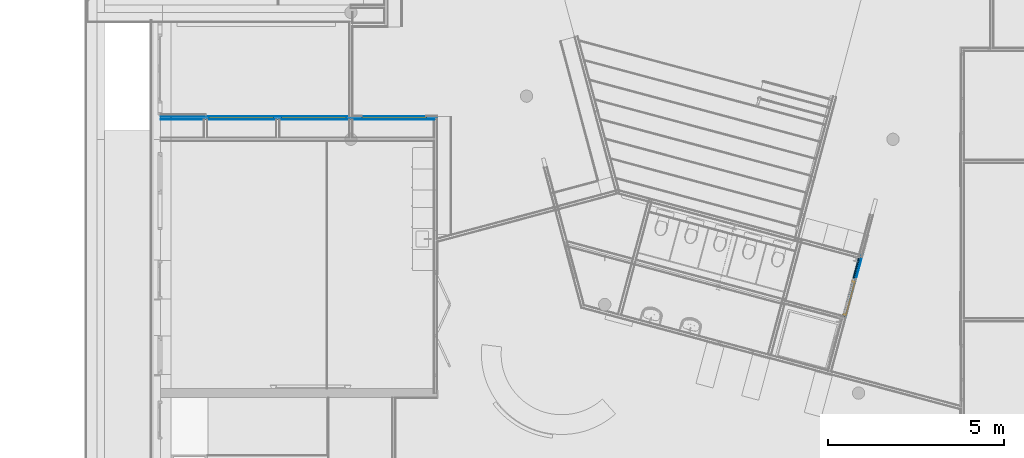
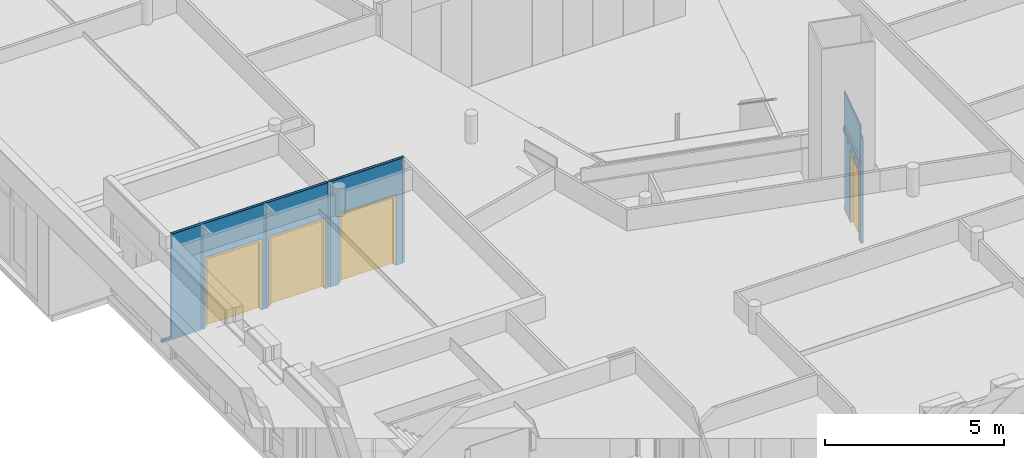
# One storey, part 27 of 167: 6 building element parts, 4 doors, 4 openings, 2 elements without a shape of their own.
"""IFC2X3 building model written with IfcOpenShell, lengths in millimetres."""

from ifc_helpers import new_model, entity, si_unit, converted_unit, derived_unit, money_unit, direction, frame, origin_with_axes, place, context, subcontext, project, spatial, faceted_brep, source, transform, mapped, material, type_object, type_shapes, element, fill, aggregate, save


model = new_model("IFC2X3")

# Units and contexts
model_context = context("Model", 3, precision=0.01, world=origin_with_axes(), true_north=direction((0.0, 1.0)))
plan_context = context("Plan", 3, precision=0.01, world=origin_with_axes(), true_north=direction((0.0, 1.0)))
body_context = subcontext(model_context, "Body", "Model", "MODEL_VIEW")
ifc_project = project(units=[si_unit("LENGTHUNIT", "METRE", prefix="MILLI"), si_unit("AREAUNIT", "SQUARE_METRE"), si_unit("VOLUMEUNIT", "CUBIC_METRE"), converted_unit("PLANEANGLEUNIT", "DEGREE", entity("IfcPlaneAngleMeasure", 0.0174532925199), si_unit("PLANEANGLEUNIT", "RADIAN"), dimensions=[0, 0, 0, 0, 0, 0, 0]), si_unit("SOLIDANGLEUNIT", "STERADIAN"), money_unit("EUR"), converted_unit("TIMEUNIT", "Year", entity("IfcTimeMeasure", 31556926.0), si_unit("TIMEUNIT", "SECOND"), dimensions=[0, 0, 1, 0, 0, 0, 0]), si_unit("MASSUNIT", "GRAM", prefix="KILO"), si_unit("THERMODYNAMICTEMPERATUREUNIT", "DEGREE_CELSIUS"), si_unit("LUMINOUSINTENSITYUNIT", "LUMEN"), si_unit("ENERGYUNIT", "JOULE", prefix="MEGA"), derived_unit("THERMALCONDUCTANCEUNIT", [(si_unit("POWERUNIT", "WATT"), 1), (si_unit("LENGTHUNIT", "METRE"), -1), (si_unit("THERMODYNAMICTEMPERATUREUNIT", "KELVIN"), -1)]), derived_unit("SPECIFICHEATCAPACITYUNIT", [(si_unit("ENERGYUNIT", "JOULE"), 1), (si_unit("MASSUNIT", "GRAM", prefix="KILO"), -1), (si_unit("THERMODYNAMICTEMPERATUREUNIT", "KELVIN"), -1)]), derived_unit("MASSDENSITYUNIT", [(si_unit("MASSUNIT", "GRAM", prefix="KILO"), 1), (si_unit("VOLUMEUNIT", "CUBIC_METRE"), -1)])], contexts=[model_context, plan_context])

# Site, building, storey
site_placement = place(None, origin_with_axes())
site = spatial("IfcSite", under=ifc_project, at=site_placement, Name="Site", CompositionType="ELEMENT")
building_placement = place(site_placement, origin_with_axes())
building = spatial("IfcBuilding", under=site, at=building_placement, Name="Naam gebouw", CompositionType="ELEMENT")
storey_placement = place(building_placement, origin_with_axes())
storey = spatial("IfcBuildingStorey", under=building, at=storey_placement, Name="Begane grond", CompositionType="ELEMENT", Elevation=0.0)

# Door
door_style_1 = type_object("IfcDoorStyle", Name="D1 24", ConstructionType="NOTDEFINED", OperationType="SINGLE_SWING_RIGHT", ParameterTakesPrecedence=False, Sizeable=False)
shared_shape_1 = source(origin_with_axes(), body_context, "Body", "Brep", [
    faceted_brep([(-450.0, -40.0, 0.0), (-450.0, -40.0, 2300.0), (-450.0, -114.0, 2300.0), (-450.0, -114.0, 0.0), (-475.0, -40.0, 2300.0), (-475.0, -40.0, 0.0), (-475.0, 0.0, 2300.0), (-517.0, 0.0, 2300.0), (-517.0, -114.0, 2300.0), (-517.0, -114.0, 0.0), (-517.0, 0.0, 0.0), (-475.0, 0.0, 0.0)], [[[0, 1, 2, 3]], [[4, 1, 0, 5]], [[4, 6, 7, 8, 2, 1]], [[3, 2, 8, 9]], [[5, 0, 3, 9, 10, 11]], [[6, 4, 5, 11]], [[6, 11, 10, 7]], [[10, 9, 8, 7]]]),
    faceted_brep([(475.0, -40.0, 2300.0), (450.0, -40.0, 2300.0), (450.0, -114.0, 2300.0), (517.0, -114.0, 2300.0), (517.0, 0.0, 2300.0), (475.0, 0.0, 2300.0), (475.0, -40.0, 0.0), (450.0, -40.0, 0.0), (450.0, -114.0, 0.0), (517.0, -114.0, 0.0), (517.0, 0.0, 0.0), (475.0, 0.0, 0.0)], [[[0, 1, 2, 3, 4, 5]], [[1, 0, 6, 7]], [[1, 7, 8, 2]], [[3, 2, 8, 9]], [[4, 3, 9, 10]], [[11, 5, 4, 10]], [[0, 5, 11, 6]], [[6, 11, 10, 9, 8, 7]]]),
    faceted_brep([(-475.0, 0.0, 2325.0), (-475.0, 0.0, 2300.0), (-517.0, 0.0, 2300.0), (-517.0, 0.0, 2367.0), (517.0, 0.0, 2367.0), (517.0, 0.0, 2300.0), (475.0, 0.0, 2300.0), (475.0, 0.0, 2325.0), (-475.0, -40.0, 2325.0), (-475.0, -40.0, 2300.0), (-450.0, -40.0, 2300.0), (-450.0, -114.0, 2300.0), (-517.0, -114.0, 2300.0), (-517.0, -114.0, 2367.0), (517.0, -114.0, 2367.0), (517.0, -114.0, 2300.0), (475.0, -40.0, 2300.0), (450.0, -114.0, 2300.0), (450.0, -40.0, 2300.0), (475.0, -40.0, 2325.0)], [[[0, 1, 2, 3, 4, 5, 6, 7]], [[1, 0, 8, 9]], [[9, 10, 11, 12, 2, 1]], [[2, 12, 13, 3]], [[3, 13, 14, 4]], [[4, 14, 15, 5]], [[16, 6, 5, 15, 17, 18]], [[7, 6, 16, 19]], [[0, 7, 19, 8]], [[16, 18, 10, 9, 8, 19]], [[10, 18, 17, 11]], [[17, 15, 14, 13, 12, 11]]]),
    faceted_brep([(475.0, 0.0, 0.0), (475.0, -40.0, 0.0), (-475.0, -40.0, 0.0), (-475.0, 0.0, 0.0), (475.0, 0.0, 2325.0), (475.0, -40.0, 2325.0), (-475.0, -40.0, 2325.0), (-475.0, 0.0, 2325.0)], [[[0, 1, 2, 3]], [[4, 5, 1, 0]], [[1, 5, 6, 2]], [[3, 2, 6, 7]], [[0, 3, 7, 4]], [[7, 6, 5, 4]]]),
])
type_shapes(door_style_1, [shared_shape_1])
wall_1_placement = place(storey_placement, frame((21651.3011694, 14664.9063745, -100.0), z_axis=(0.0, 0.0, 1.0), x_axis=(-0.258819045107, -0.965925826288, 0.0)))
opening_1_placement = place(wall_1_placement, frame((1210.53165571, 0.0, 100.0), z_axis=(0.0, 0.0, 1.0), x_axis=(1.0, 0.0, 0.0)))
door_1_placement = place(opening_1_placement, frame((-517.0, 0.0, 0.0), z_axis=(0.0, 0.0, 1.0), x_axis=(1.0, 0.0, 0.0)))
door_1 = element("IfcDoor", 1, at=door_1_placement, inside=storey, type_object=door_style_1, Name="32_Deur_Hi-01s", ObjectType="DOOR", OverallHeight=2367.0, OverallWidth=1034.0, context=body_context, shape_type="MappedRepresentation", body=[
    mapped(shared_shape_1, transform((517.0, 50.0, 0.0))),
])

door_style_2 = type_object("IfcDoorStyle", Name="D2 24", ConstructionType="NOTDEFINED", OperationType="DOUBLE_DOOR_SINGLE_SWING", ParameterTakesPrecedence=False, Sizeable=False)
shared_shape_2 = source(origin_with_axes(), body_context, "Body", "Brep", [
    faceted_brep([(-848.5, -40.0, 0.0), (-848.5, -40.0, 2300.0), (-848.5, -114.0, 2300.0), (-848.5, -114.0, 0.0), (-873.5, -40.0, 2300.0), (-873.5, -40.0, 0.0), (-873.5, 0.0, 2300.0), (-915.5, 0.0, 2300.0), (-915.5, -114.0, 2300.0), (-915.5, -114.0, 0.0), (-915.5, 0.0, 0.0), (-873.5, 0.0, 0.0)], [[[0, 1, 2, 3]], [[4, 1, 0, 5]], [[4, 6, 7, 8, 2, 1]], [[3, 2, 8, 9]], [[5, 0, 3, 9, 10, 11]], [[6, 4, 5, 11]], [[6, 11, 10, 7]], [[10, 9, 8, 7]]]),
    faceted_brep([(873.5, -40.0, 2300.0), (848.5, -40.0, 2300.0), (848.5, -114.0, 2300.0), (915.5, -114.0, 2300.0), (915.5, 0.0, 2300.0), (873.5, 0.0, 2300.0), (873.5, -40.0, 0.0), (848.5, -40.0, 0.0), (848.5, -114.0, 0.0), (915.5, -114.0, 0.0), (915.5, 0.0, 0.0), (873.5, 0.0, 0.0)], [[[0, 1, 2, 3, 4, 5]], [[1, 0, 6, 7]], [[1, 7, 8, 2]], [[3, 2, 8, 9]], [[4, 3, 9, 10]], [[11, 5, 4, 10]], [[0, 5, 11, 6]], [[6, 11, 10, 9, 8, 7]]]),
    faceted_brep([(-873.5, 0.0, 2325.0), (-873.5, 0.0, 2300.0), (-915.5, 0.0, 2300.0), (-915.5, 0.0, 2367.0), (915.5, 0.0, 2367.0), (915.5, 0.0, 2300.0), (873.5, 0.0, 2300.0), (873.5, 0.0, 2325.0), (-873.5, -40.0, 2325.0), (-873.5, -40.0, 2300.0), (-848.5, -40.0, 2300.0), (-848.5, -114.0, 2300.0), (-915.5, -114.0, 2300.0), (-915.5, -114.0, 2367.0), (915.5, -114.0, 2367.0), (915.5, -114.0, 2300.0), (873.5, -40.0, 2300.0), (848.5, -114.0, 2300.0), (848.5, -40.0, 2300.0), (873.5, -40.0, 2325.0)], [[[0, 1, 2, 3, 4, 5, 6, 7]], [[1, 0, 8, 9]], [[9, 10, 11, 12, 2, 1]], [[2, 12, 13, 3]], [[3, 13, 14, 4]], [[4, 14, 15, 5]], [[16, 6, 5, 15, 17, 18]], [[7, 6, 16, 19]], [[0, 7, 19, 8]], [[16, 18, 10, 9, 8, 19]], [[10, 18, 17, 11]], [[17, 15, 14, 13, 12, 11]]]),
    faceted_brep([(873.5, 0.0, 0.0), (873.5, -40.0, 0.0), (0.0, -40.0, 0.0), (0.0, 0.0, 0.0), (873.5, 0.0, 2325.0), (873.5, -40.0, 2325.0), (0.0, -40.0, 2325.0), (0.0, 0.0, 2325.0)], [[[0, 1, 2, 3]], [[4, 5, 1, 0]], [[1, 5, 6, 2]], [[3, 2, 6, 7]], [[0, 3, 7, 4]], [[7, 6, 5, 4]]]),
    faceted_brep([(-873.5, 0.0, 0.0), (0.0, 0.0, 0.0), (0.0, -40.0, 0.0), (-873.5, -40.0, 0.0), (-873.5, 0.0, 2325.0), (0.0, 0.0, 2325.0), (0.0, -40.0, 2325.0), (-873.5, -40.0, 2325.0)], [[[0, 1, 2, 3]], [[0, 4, 5, 1]], [[1, 5, 6, 2]], [[3, 2, 6, 7]], [[4, 0, 3, 7]], [[5, 4, 7, 6]]]),
])
type_shapes(door_style_2, [shared_shape_2])
wall_2_placement = place(storey_placement, frame((9600.0, 18600.0, -100.0), z_axis=(0.0, 0.0, 1.0), x_axis=(-1.0, 0.0, 0.0)))
opening_2_placement = place(wall_2_placement, frame((5508.89808526, 0.0, 100.0), z_axis=(0.0, 0.0, 1.0), x_axis=(1.0, 0.0, 0.0)))
door_2_placement = place(opening_2_placement, frame((915.5, 0.0, 0.0), z_axis=(0.0, 0.0, 1.0), x_axis=(-1.0, 0.0, 0.0)))
door_2 = element("IfcDoor", 2, at=door_2_placement, inside=storey, type_object=door_style_2, Name="_Deur_Hi-08", ObjectType="DOOR", OverallHeight=2367.0, OverallWidth=1831.0, context=body_context, shape_type="MappedRepresentation", body=[
    mapped(shared_shape_2, transform((915.5, 50.0, 0.0))),
])

opening_3_placement = place(wall_2_placement, frame((3451.11329833, 0.0, 100.0), z_axis=(0.0, 0.0, 1.0), x_axis=(1.0, 0.0, 0.0)))
door_3_placement = place(opening_3_placement, frame((915.5, 0.0, 0.0), z_axis=(0.0, 0.0, 1.0), x_axis=(-1.0, 0.0, 0.0)))
door_3 = element("IfcDoor", 3, at=door_3_placement, inside=storey, type_object=door_style_2, Name="_Deur_Hi-08", ObjectType="DOOR", OverallHeight=2367.0, OverallWidth=1831.0, context=body_context, shape_type="MappedRepresentation", body=[
    mapped(shared_shape_2, transform((915.5, 50.0, 0.0))),
])

opening_4_placement = place(wall_2_placement, frame((1175.41995261, 0.0, 100.0), z_axis=(0.0, 0.0, 1.0), x_axis=(1.0, 0.0, 0.0)))
door_4_placement = place(opening_4_placement, frame((915.5, 0.0, 0.0), z_axis=(0.0, 0.0, 1.0), x_axis=(-1.0, 0.0, 0.0)))
door_4 = element("IfcDoor", 4, at=door_4_placement, inside=storey, type_object=door_style_2, Name="_Deur_Hi-08", ObjectType="DOOR", OverallHeight=2367.0, OverallWidth=1831.0, context=body_context, shape_type="MappedRepresentation", body=[
    mapped(shared_shape_2, transform((915.5, 50.0, 0.0))),
])

# Wall, opening
wall_type = type_object("IfcWallType", Name="_TenW_22_Metalstud 100 enkel gipsvezelplaat 100", PredefinedType="NOTDEFINED")
wall_1 = element("IfcWall", 5, at=wall_1_placement, inside=storey, type_object=wall_type, Name="22_Wand_Wand-x")
opening_1 = element("IfcOpeningElement", 6, at=opening_1_placement, cuts=wall_1, Name="32_Deur_Hi-01s", context=body_context, shape_type="Brep", body=[
    faceted_brep([(517.0, -100.0, 2367.0), (517.0, -100.0, 0.0), (517.0, 200.0, 0.0), (517.0, 200.0, 2367.0), (-517.0, -100.0, 2367.0), (-517.0, -100.0, 0.0), (-517.0, 200.0, 0.0), (-517.0, 200.0, 2367.0)], [[[0, 1, 2, 3]], [[0, 4, 5, 1]], [[1, 5, 6, 2]], [[3, 2, 6, 7]], [[4, 0, 3, 7]], [[5, 4, 7, 6]]]),
])

fill(opening_1, door_1)

# Building element part
ifc_material_1 = material(Name="Gipsplaat watervast")
building_element_part_1_placement = place(wall_1_placement, origin_with_axes())
building_element_part_1 = element("IfcBuildingElementPart", 7, at=building_element_part_1_placement, material=ifc_material_1, Name="Gipsplaat watervast", context=body_context, shape_type="Brep", body=[
    faceted_brep([(1727.53165571, 50.0000196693, 100.0), (1727.53165571, 49.9999913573, 2467.0), (693.53165571, 49.9999913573, 2467.0), (693.53165571, 50.0000196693, 100.0), (693.53165571, 50.0000077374, 30.0), (0.0, 50.0, 30.0), (0.0, 50.0, 100.0), (-37.5000000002, 50.0000174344, 100.0), (-37.5000000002, 50.0000006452, 2590.0), (-50.0000000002, 50.0000006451, 2590.0), (-150.0, 49.9999918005, 2590.0), (-150.0, 49.9999913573, 2730.0), (0.0, 49.9999913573, 2730.0), (0.0, 49.9999913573, 3630.0), (1750.01800562, 50.000002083, 3630.0), (1750.01800546, 50.000019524, 30.0), (1727.53165571, 50.0000192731, 30.0), (1727.53165571, 37.5, 100.0), (1727.53165571, 37.5000000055, 2467.0), (693.53165571, 37.5000000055, 2467.0), (693.53165571, 37.5, 100.0), (693.53165571, 37.5000000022, 30.0), (0.0, 37.5, 30.0), (0.0, 37.5, 100.0), (-37.5000000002, 37.5, 100.0), (-37.5000000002, 37.5, 2590.0), (-50.0000000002, 37.5, 2590.0), (-150.0, 37.5000069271, 2590.0), (-150.0, 37.5000073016, 2730.0), (0.0, 37.5000073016, 2730.0), (0.0, 37.5000073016, 3630.0), (1750.01800562, 37.5000006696, 3630.0), (1750.01800546, 37.5000000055, 30.0), (1727.53165571, 37.5000000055, 30.0)], [[[0, 1, 2, 3, 4, 5, 6, 7, 8, 9, 10, 11, 12, 13, 14, 15, 16]], [[1, 0, 17, 18]], [[2, 1, 18, 19]], [[3, 2, 19, 20]], [[3, 20, 21, 4]], [[4, 21, 22, 5]], [[5, 22, 23, 6]], [[23, 24, 7, 6]], [[25, 8, 7, 24]], [[25, 26, 9, 8]], [[10, 9, 26, 27]], [[28, 11, 10, 27]], [[28, 29, 12, 11]], [[30, 13, 12, 29]], [[14, 13, 30, 31]], [[14, 31, 32, 15]], [[33, 16, 15, 32]], [[17, 0, 16, 33]], [[18, 17, 33, 32, 31, 30, 29, 28, 27, 26, 25, 24, 23, 22, 21, 20, 19]]]),
])

ifc_material_2 = material(Name="Isolatie - Steenwol zacht")
building_element_part_2_placement = place(wall_1_placement, origin_with_axes())
building_element_part_2 = element("IfcBuildingElementPart", 8, at=building_element_part_2_placement, material=ifc_material_2, Name="Isolatie - Steenwol zacht", context=body_context, shape_type="Brep", body=[
    faceted_brep([(1727.53165571, 37.4999999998, 100.0), (1727.53165571, 37.5000073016, 2467.0), (693.53165571, 37.5000073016, 2467.0), (693.53165571, 37.4999999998, 100.0), (693.53165571, 37.4999999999, 30.0), (0.0, 37.5, 30.0), (0.0, 37.5, 100.0), (37.4999999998, 37.5, 100.0), (37.4999999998, 37.5, 2590.0), (-50.0000000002, 37.5, 2590.0), (-150.0, 37.5000069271, 2590.0), (-150.0, 37.5000073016, 2730.0), (0.0, 37.5000073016, 2730.0), (0.0, 37.5000073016, 3630.0), (1762.51800495, 37.4999999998, 3630.0), (1762.51800478, 37.4999999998, 30.0), (1727.53165571, 37.4999999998, 30.0), (1727.53165571, -37.5, 100.0), (1727.53165571, -37.4999997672, 2467.0), (693.53165571, -37.4999997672, 2467.0), (693.53165571, -37.5, 100.0), (693.53165571, -37.4999999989, 30.0), (0.0, -37.5, 30.0), (0.0, -37.5, 100.0), (37.5000000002, -37.5, 100.0), (37.5000000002, -37.5, 2537.0), (37.5000000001, -28.3940989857, 2537.0), (37.5000000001, -28.3940989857, 2545.5), (37.5000000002, -37.5, 2545.5), (37.5000000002, -37.5, 2590.0), (-49.9999999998, -37.5, 2590.0), (-150.0, -37.4999963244, 2590.0), (-150.0, -37.4999961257, 2730.0), (0.0, -37.4999961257, 2730.0), (0.0, -37.4999961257, 4060.0), (0.0, -4.23126185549, 4060.0), (0.0, -4.23126185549, 3630.0), (1762.51800497, -3.73560299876, 3630.0), (1762.5180049, -37.4999997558, 2661.5), (1762.5180049, -37.4999997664, 2545.5), (1762.51800497, -28.3940989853, 2545.5), (1762.51800497, -28.3940989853, 2537.0), (1762.5180049, -37.4999997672, 2537.0), (1762.51800479, -37.4999999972, 30.0), (1762.51800497, -3.73560299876, 4060.0), (1762.51800497, -37.4999996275, 4060.0), (1762.5180049, -37.499999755, 2670.0), (1762.51800497, -28.3940989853, 2670.0), (1762.51800497, -28.3940989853, 2661.5), (1727.53165571, -37.4999999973, 30.0), (29.2165311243, -37.5, 2661.5), (29.2165311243, -37.5, 2670.0), (1725.04366794, -37.5, 2730.0), (25.9212855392, -37.5, 2730.0), (25.9212855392, -37.5, 2980.0), (1725.04366794, -37.5, 2980.0), (29.2165311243, -28.3940989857, 2670.0), (29.2165311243, -28.3940989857, 2661.5), (1725.01799476, -28.3941080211, 2730.0), (25.9095192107, -28.3940989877, 2730.0), (25.9095192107, -28.3940989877, 2980.0), (1725.01799476, -28.3941080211, 2980.0)], [[[0, 1, 2, 3, 4, 5, 6, 7, 8, 9, 10, 11, 12, 13, 14, 15, 16]], [[1, 0, 17, 18]], [[2, 1, 18, 19]], [[3, 2, 19, 20]], [[3, 20, 21, 4]], [[4, 21, 22, 5]], [[5, 22, 23, 6]], [[24, 7, 6, 23]], [[8, 7, 24, 25, 26, 27, 28, 29]], [[30, 9, 8, 29]], [[10, 9, 30, 31]], [[32, 11, 10, 31]], [[33, 12, 11, 32]], [[12, 33, 34, 35, 36, 13]], [[14, 13, 36, 37]], [[38, 39, 40, 41, 42, 43, 15, 14, 37, 44, 45, 46, 47, 48]], [[49, 16, 15, 43]], [[17, 0, 16, 49]], [[18, 17, 49, 43, 42, 25, 24, 23, 22, 21, 20, 19]], [[25, 42, 41, 26]], [[26, 41, 40, 27]], [[27, 40, 39, 28]], [[31, 30, 29, 28, 39, 38, 50, 51, 46, 45, 34, 33, 32], [52, 53, 54, 55]], [[44, 35, 34, 45]], [[37, 36, 35, 44]], [[51, 56, 47, 46]], [[47, 56, 57, 48]], [[38, 48, 57, 50]], [[50, 57, 56, 51]], [[53, 52, 58, 59]], [[54, 53, 59, 60]], [[55, 54, 60, 61]], [[52, 55, 61, 58]], [[58, 61, 60, 59]]]),
])

building_element_part_3_placement = place(wall_1_placement, origin_with_axes())
building_element_part_3 = element("IfcBuildingElementPart", 9, at=building_element_part_3_placement, material=ifc_material_1, Name="Gipsplaat watervast", context=body_context, shape_type="Brep", body=[
    faceted_brep([(1727.53165571, -37.5, 100.0), (1727.53165571, -37.5, 2467.0), (693.53165571, -37.5, 2467.0), (693.53165571, -37.5, 100.0), (693.53165571, -37.4999999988, 30.0), (0.0, -37.5, 30.0), (0.0, -37.5, 100.0), (50.0000000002, -37.5, 100.0), (50.0000000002, -37.5, 2537.0), (1750.01800557, -37.4999997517, 2537.0), (1750.01800546, -37.4999999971, 30.0), (1727.53165571, -37.4999999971, 30.0), (1727.53165571, -50.0, 100.0), (1727.53165571, -50.0, 2467.0), (693.53165571, -50.0, 2467.0), (693.53165571, -50.0, 100.0), (693.53165571, -50.0, 30.0), (0.0, -50.0, 30.0), (0.0, -50.0, 100.0), (50.0000000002, -50.0, 100.0), (50.0000000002, -50.0, 2537.0), (1750.01800557, -50.0, 2537.0), (1750.01800546, -50.0, 30.0), (1727.53165571, -50.0, 30.0)], [[[0, 1, 2, 3, 4, 5, 6, 7, 8, 9, 10, 11]], [[1, 0, 12, 13]], [[2, 1, 13, 14]], [[3, 2, 14, 15]], [[3, 15, 16, 4]], [[4, 16, 17, 5]], [[5, 17, 18, 6]], [[6, 18, 19, 7]], [[8, 7, 19, 20]], [[8, 20, 21, 9]], [[21, 22, 10, 9]], [[23, 11, 10, 22]], [[12, 0, 11, 23]], [[13, 12, 23, 22, 21, 20, 19, 18, 17, 16, 15, 14]]]),
    faceted_brep([(50.0000000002, -37.5, 2661.5), (1750.01800558, -37.4999997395, 2661.5), (1750.01800557, -37.4999997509, 2545.5), (50.0000000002, -37.5, 2545.5), (50.0000000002, -50.0, 2661.5), (1750.01800558, -50.0, 2661.5), (1750.01800557, -50.0, 2545.5), (50.0000000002, -50.0, 2545.5)], [[[0, 1, 2, 3]], [[1, 0, 4, 5]], [[1, 5, 6, 2]], [[7, 3, 2, 6]], [[4, 0, 3, 7]], [[5, 4, 7, 6]]]),
    faceted_brep([(1750.01800558, -37.4999997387, 2670.0), (50.0000000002, -37.5, 2670.0), (50.0000000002, -37.5, 2730.0), (1725.04366794, -37.5, 2730.0), (1725.04366794, -37.5, 2980.0), (25.9212855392, -37.5, 2980.0), (25.9212855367, -37.4999981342, 2730.0), (0.0, -37.4999961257, 2730.0), (0.0, -37.4999961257, 4060.0), (1750.01800564, -37.4999996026, 4060.0), (50.0000000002, -50.0, 2670.0), (1750.01800558, -50.0, 2670.0), (50.0000000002, -50.0, 2730.0), (1725.07891047, -50.0, 2730.0), (1725.07891047, -50.0, 2980.0), (25.9374376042, -50.0, 2980.0), (25.9374376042, -50.0, 2730.0), (0.0, -50.0, 2730.0), (0.0, -50.0, 4060.0), (1750.01800564, -50.0, 4060.0)], [[[0, 1, 2, 3, 4, 5, 6, 7, 8, 9]], [[10, 1, 0, 11]], [[1, 10, 12, 2]], [[13, 3, 2, 12]], [[14, 4, 3, 13]], [[15, 5, 4, 14]], [[16, 6, 5, 15]], [[7, 6, 16, 17]], [[18, 8, 7, 17]], [[8, 18, 19, 9]], [[11, 0, 9, 19]], [[10, 11, 19, 18, 17, 16, 15, 14, 13, 12]]]),
])

aggregate(wall_1, [building_element_part_1, building_element_part_2, building_element_part_3])

# Wall, opening
wall_2 = element("IfcWall", 10, at=wall_2_placement, inside=storey, type_object=wall_type, Name="22_Wand_Wand-x")
opening_2 = element("IfcOpeningElement", 11, at=opening_2_placement, cuts=wall_2, Name="_Deur_Hi-08", context=body_context, shape_type="Brep", body=[
    faceted_brep([(-915.5, 100.0, 2367.0), (-915.5, 100.0, 0.0), (-915.5, -200.0, 0.0), (-915.5, -200.0, 2367.0), (915.5, 100.0, 2367.0), (915.5, 100.0, 0.0), (915.5, -200.0, 0.0), (915.5, -200.0, 2367.0)], [[[0, 1, 2, 3]], [[0, 4, 5, 1]], [[1, 5, 6, 2]], [[3, 2, 6, 7]], [[4, 0, 3, 7]], [[5, 4, 7, 6]]]),
])

fill(opening_2, door_2)

# Opening
opening_3 = element("IfcOpeningElement", 12, at=opening_3_placement, cuts=wall_2, Name="_Deur_Hi-08", context=body_context, shape_type="Brep", body=[
    faceted_brep([(-915.5, 100.0, 2367.0), (-915.5, 100.0, 0.0), (-915.5, -200.0, 0.0), (-915.5, -200.0, 2367.0), (915.5, 100.0, 2367.0), (915.5, 100.0, 0.0), (915.5, -200.0, 0.0), (915.5, -200.0, 2367.0)], [[[0, 1, 2, 3]], [[0, 4, 5, 1]], [[1, 5, 6, 2]], [[3, 2, 6, 7]], [[4, 0, 3, 7]], [[5, 4, 7, 6]]]),
])

fill(opening_3, door_3)

opening_4 = element("IfcOpeningElement", 13, at=opening_4_placement, cuts=wall_2, Name="_Deur_Hi-08", context=body_context, shape_type="Brep", body=[
    faceted_brep([(-915.5, 100.0, 2367.0), (-915.5, 100.0, 0.0), (-915.5, -200.0, 0.0), (-915.5, -200.0, 2367.0), (915.5, 100.0, 2367.0), (915.5, 100.0, 0.0), (915.5, -200.0, 0.0), (915.5, -200.0, 2367.0)], [[[0, 1, 2, 3]], [[0, 4, 5, 1]], [[1, 5, 6, 2]], [[3, 2, 6, 7]], [[4, 0, 3, 7]], [[5, 4, 7, 6]]]),
])

fill(opening_4, door_4)

# Building element part
building_element_part_4_placement = place(wall_2_placement, origin_with_axes())
building_element_part_4 = element("IfcBuildingElementPart", 14, at=building_element_part_4_placement, material=ifc_material_1, Name="Gipsplaat watervast", context=body_context, shape_type="Brep", body=[
    faceted_brep([(6557.54693941, 50.0, 30.0), (6557.54693941, 37.5, 30.0), (6557.54693941, 37.5, 3629.99999855), (6557.54693941, 50.0, 3629.99999855), (7800.0, 37.5, 30.0), (7800.0, 50.0, 30.0), (7800.0, 37.5, 100.0), (7500.0, 37.5, 100.0), (7500.0, 37.5, 3629.99999752), (7500.0, 50.0, 3629.99999752), (7500.0, 50.0, 100.0), (7800.0, 50.0, 100.0)], [[[0, 1, 2, 3]], [[4, 1, 0, 5]], [[1, 4, 6, 7, 8, 2]], [[2, 8, 9, 3]], [[5, 0, 3, 9, 10, 11]], [[4, 5, 11, 6]], [[10, 7, 6, 11]], [[10, 9, 8, 7]]]),
    faceted_brep([(2090.91995261, 37.5, 2467.0), (2090.91995261, 37.5, 100.0), (2090.91995261, 37.5, 30.0), (2362.5, 37.5, 30.0), (2362.5, 37.5, 3629.9999979), (37.5, 37.5, 3629.99999755), (37.5, 37.5, 30.0), (259.919952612, 37.5, 30.0), (259.919952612, 37.5, 100.0), (259.919952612, 37.5, 2467.0), (2090.91995261, 50.0, 2467.0), (2090.91995261, 50.0, 100.0), (2090.91995261, 50.0, 30.0), (2362.5, 50.0, 30.0), (2362.5, 50.0, 3629.9999979), (37.5, 50.0, 3629.99999755), (37.5, 50.0, 30.0), (259.919952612, 50.0, 30.0), (259.919952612, 50.0, 100.0), (259.919952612, 50.0, 2467.0)], [[[0, 1, 2, 3, 4, 5, 6, 7, 8, 9]], [[1, 0, 10, 11]], [[1, 11, 12, 2]], [[12, 13, 3, 2]], [[13, 14, 4, 3]], [[14, 15, 5, 4]], [[6, 5, 15, 16]], [[7, 6, 16, 17]], [[18, 8, 7, 17]], [[9, 8, 18, 19]], [[0, 9, 19, 10]], [[19, 18, 17, 16, 15, 14, 13, 12, 11, 10]]]),
    faceted_brep([(4366.61329833, 37.5, 2467.0), (4366.61329833, 37.5, 100.0), (4366.61329833, 37.5, 30.0), (4436.83571712, 37.5, 30.0), (4436.83571712, 37.5, 3629.99999822), (2437.5, 37.5, 3629.99999791), (2437.5, 37.5, 30.0), (2535.61329833, 37.5, 30.0), (2535.61329833, 37.5, 100.0), (2535.61329833, 37.5, 2467.0), (4366.61329833, 50.0, 2467.0), (4366.61329833, 50.0, 100.0), (4366.61329833, 50.0, 30.0), (4436.83571712, 50.0, 30.0), (4436.83571712, 50.0, 3629.99999822), (2437.5, 50.0, 3629.99999791), (2437.5, 50.0, 30.0), (2535.61329833, 50.0, 30.0), (2535.61329833, 50.0, 100.0), (2535.61329833, 50.0, 2467.0)], [[[0, 1, 2, 3, 4, 5, 6, 7, 8, 9]], [[1, 0, 10, 11]], [[1, 11, 12, 2]], [[12, 13, 3, 2]], [[13, 14, 4, 3]], [[14, 15, 5, 4]], [[6, 5, 15, 16]], [[7, 6, 16, 17]], [[18, 8, 7, 17]], [[9, 8, 18, 19]], [[0, 9, 19, 10]], [[19, 18, 17, 16, 15, 14, 13, 12, 11, 10]]]),
    faceted_brep([(6424.39808526, 37.5, 2467.0), (6424.39808526, 37.5, 100.0), (6424.39808526, 37.5, 30.0), (6482.54693941, 37.5, 30.0), (6482.54693941, 37.5, 3629.99999853), (4511.83571712, 37.5, 3629.99999823), (4511.83571712, 37.5, 30.0), (4593.39808526, 37.5, 30.0), (4593.39808526, 37.5, 100.0), (4593.39808526, 37.5, 2467.0), (6424.39808526, 50.0, 2467.0), (6424.39808526, 50.0, 100.0), (6424.39808526, 50.0, 30.0), (6482.54693941, 50.0, 30.0), (6482.54693941, 50.0, 3629.99999853), (4511.83571712, 50.0, 3629.99999823), (4511.83571712, 50.0, 30.0), (4593.39808526, 50.0, 30.0), (4593.39808526, 50.0, 100.0), (4593.39808526, 50.0, 2467.0)], [[[0, 1, 2, 3, 4, 5, 6, 7, 8, 9]], [[1, 0, 10, 11]], [[1, 11, 12, 2]], [[12, 13, 3, 2]], [[13, 14, 4, 3]], [[14, 15, 5, 4]], [[6, 5, 15, 16]], [[7, 6, 16, 17]], [[18, 8, 7, 17]], [[9, 8, 18, 19]], [[0, 9, 19, 10]], [[19, 18, 17, 16, 15, 14, 13, 12, 11, 10]]]),
])

building_element_part_5_placement = place(wall_2_placement, origin_with_axes())
building_element_part_5 = element("IfcBuildingElementPart", 15, at=building_element_part_5_placement, material=ifc_material_2, Name="Isolatie - Steenwol zacht", context=body_context, shape_type="Brep", body=[
    faceted_brep([(2090.91995261, -37.5, 2467.0), (2090.91995261, -37.5, 100.0), (2090.91995261, -37.5, 30.0), (2535.61329833, -37.5, 30.0), (2535.61329833, -37.5, 100.0), (2535.61329833, -37.5, 2467.0), (4366.61329833, -37.5, 2467.0), (4366.61329833, -37.5, 100.0), (4366.61329833, -37.5, 30.0), (4593.39808526, -37.5, 30.0), (4593.39808526, -37.5, 100.0), (4593.39808526, -37.5, 2467.0), (6424.39808526, -37.5, 2467.0), (6424.39808526, -37.5, 100.0), (6424.39808526, -37.5, 30.0), (7800.0, -37.5, 30.0), (7800.0, -37.5, 100.0), (7500.0, -37.5, 100.0), (7500.0, -37.5, 3629.99999752), (-37.5, -37.5, 3629.99999753), (-37.5, -37.5, 30.0), (259.919952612, -37.5, 30.0), (259.919952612, -37.5, 100.0), (259.919952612, -37.5, 2467.0), (2090.91995261, 37.5, 2467.0), (2090.91995261, 37.5, 100.0), (2090.91995261, 37.5, 30.0), (2535.61329833, 37.5, 30.0), (2535.61329833, 37.5, 100.0), (2535.61329833, 37.5, 2467.0), (4366.61329833, 37.5, 2467.0), (4366.61329833, 37.5, 100.0), (4366.61329833, 37.5, 30.0), (4593.39808526, 37.5, 30.0), (4593.39808526, 37.5, 100.0), (4593.39808526, 37.5, 2467.0), (6424.39808526, 37.5, 2467.0), (6424.39808526, 37.5, 100.0), (6424.39808526, 37.5, 30.0), (7800.0, 37.5, 30.0), (7800.0, 37.5, 100.0), (7500.0, 37.5, 100.0), (7500.0, 37.5, 3629.99999752), (-37.5, 37.5, 3629.99999753), (-37.5, 37.5, 30.0), (259.919952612, 37.5, 30.0), (259.919952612, 37.5, 100.0), (259.919952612, 37.5, 2467.0)], [[[0, 1, 2, 3, 4, 5, 6, 7, 8, 9, 10, 11, 12, 13, 14, 15, 16, 17, 18, 19, 20, 21, 22, 23]], [[1, 0, 24, 25]], [[1, 25, 26, 2]], [[26, 27, 3, 2]], [[4, 3, 27, 28]], [[4, 28, 29, 5]], [[5, 29, 30, 6]], [[6, 30, 31, 7]], [[31, 32, 8, 7]], [[32, 33, 9, 8]], [[9, 33, 34, 10]], [[34, 35, 11, 10]], [[35, 36, 12, 11]], [[36, 37, 13, 12]], [[38, 14, 13, 37]], [[15, 14, 38, 39]], [[16, 15, 39, 40]], [[40, 41, 17, 16]], [[17, 41, 42, 18]], [[43, 19, 18, 42]], [[43, 44, 20, 19]], [[44, 45, 21, 20]], [[46, 22, 21, 45]], [[23, 22, 46, 47]], [[0, 23, 47, 24]], [[47, 46, 45, 44, 43, 42, 41, 40, 39, 38, 37, 36, 35, 34, 33, 32, 31, 30, 29, 28, 27, 26, 25, 24]]]),
])

building_element_part_6_placement = place(wall_2_placement, origin_with_axes())
building_element_part_6 = element("IfcBuildingElementPart", 16, at=building_element_part_6_placement, material=ifc_material_1, Name="Gipsplaat watervast", context=body_context, shape_type="Brep", body=[
    faceted_brep([(4366.61329833, -50.0, 2467.0), (4366.61329833, -50.0, 100.0), (4366.61329833, -50.0, 30.0), (4593.39808526, -50.0, 30.0), (4593.39808526, -50.0, 100.0), (4593.39808526, -50.0, 2467.0), (6424.39808526, -50.0, 2467.0), (6424.39808526, -50.0, 100.0), (6424.39808526, -50.0, 30.0), (7800.0, -50.0, 30.0), (7800.0, -50.0, 100.0), (7500.0, -50.0, 100.0), (7500.0, -50.0, 3629.99999752), (2437.5, -50.0, 3629.99999791), (2437.5, -50.0, 30.0), (2535.61329833, -50.0, 30.0), (2535.61329833, -50.0, 100.0), (2535.61329833, -50.0, 2467.0), (4366.61329833, -37.5, 2467.0), (4366.61329833, -37.5, 100.0), (4366.61329833, -37.5, 30.0), (4593.39808526, -37.5, 30.0), (4593.39808526, -37.5, 100.0), (4593.39808526, -37.5, 2467.0), (6424.39808526, -37.5, 2467.0), (6424.39808526, -37.5, 100.0), (6424.39808526, -37.5, 30.0), (7800.0, -37.5, 30.0), (7800.0, -37.5, 100.0), (7500.0, -37.5, 100.0), (7500.0, -37.5, 3629.99999752), (2437.5, -37.5, 3629.99999791), (2437.5, -37.5, 30.0), (2535.61329833, -37.5, 30.0), (2535.61329833, -37.5, 100.0), (2535.61329833, -37.5, 2467.0)], [[[0, 1, 2, 3, 4, 5, 6, 7, 8, 9, 10, 11, 12, 13, 14, 15, 16, 17]], [[1, 0, 18, 19]], [[1, 19, 20, 2]], [[2, 20, 21, 3]], [[4, 3, 21, 22]], [[4, 22, 23, 5]], [[5, 23, 24, 6]], [[6, 24, 25, 7]], [[25, 26, 8, 7]], [[27, 9, 8, 26]], [[28, 10, 9, 27]], [[10, 28, 29, 11]], [[12, 11, 29, 30]], [[30, 31, 13, 12]], [[13, 31, 32, 14]], [[14, 32, 33, 15]], [[34, 16, 15, 33]], [[17, 16, 34, 35]], [[0, 17, 35, 18]], [[35, 34, 33, 32, 31, 30, 29, 28, 27, 26, 25, 24, 23, 22, 21, 20, 19, 18]]]),
    faceted_brep([(2090.91995261, -50.0, 2467.0), (2090.91995261, -50.0, 100.0), (2090.91995261, -50.0, 30.0), (2362.5, -50.0, 30.0), (2362.5, -50.0, 3629.9999979), (-50.0, -50.0, 3629.99999753), (-50.0, -50.0, 30.0), (259.919952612, -50.0, 30.0), (259.919952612, -50.0, 100.0), (259.919952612, -50.0, 2467.0), (2090.91995261, -37.5, 2467.0), (2090.91995261, -37.5, 100.0), (2090.91995261, -37.5, 30.0), (2362.5, -37.5, 30.0), (2362.5, -37.5, 3629.9999979), (-50.0, -37.5, 3629.99999753), (-50.0, -37.5, 30.0), (259.919952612, -37.5, 30.0), (259.919952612, -37.5, 100.0), (259.919952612, -37.5, 2467.0)], [[[0, 1, 2, 3, 4, 5, 6, 7, 8, 9]], [[1, 0, 10, 11]], [[1, 11, 12, 2]], [[12, 13, 3, 2]], [[13, 14, 4, 3]], [[14, 15, 5, 4]], [[6, 5, 15, 16]], [[7, 6, 16, 17]], [[18, 8, 7, 17]], [[9, 8, 18, 19]], [[0, 9, 19, 10]], [[19, 18, 17, 16, 15, 14, 13, 12, 11, 10]]]),
])

aggregate(wall_2, [building_element_part_4, building_element_part_5, building_element_part_6])

save(model, "model.ifc")
